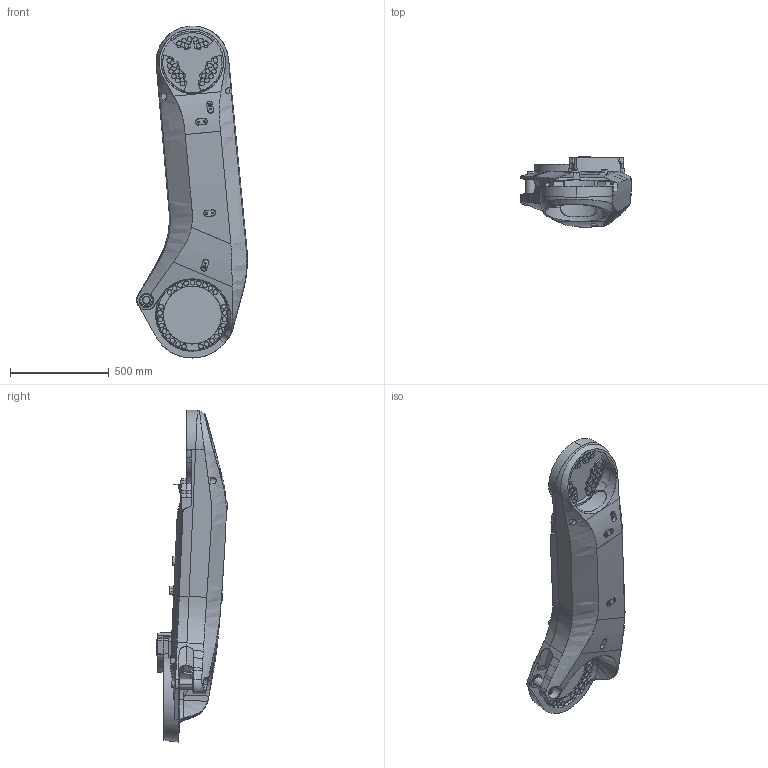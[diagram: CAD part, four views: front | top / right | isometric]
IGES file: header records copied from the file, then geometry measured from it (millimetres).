
Start section: SolidWorks IGES file using analytic representation for surfaces
Global section: file name: C:\Data\SAP_DOC\IRB6740_lightweight\6750S\IRB 6750S ASM\IRB6750S-LID-MH_220kg-360_OC_01_SW_J\IRB6750S-LID-MH_220kg-360_OC_01_IGES_J\IRB6750S_All_OC_00_LINK02_CAD.igs; native system: SolidWorks 2024; preprocessor: SolidWorks 2024; author: SEJAOLS6; date: 260513.073310; units: millimetre
Bounding box: 561.66 x 358 x 1681.43 mm (x, y, z)
Surface area: 2390215.7 mm2 (no closed solid volume)
Topology: 0 solids, 0 shells, 940 faces, 21562 edges, 21548 vertices
Faces by surface type: bspline 547, revolution 393
